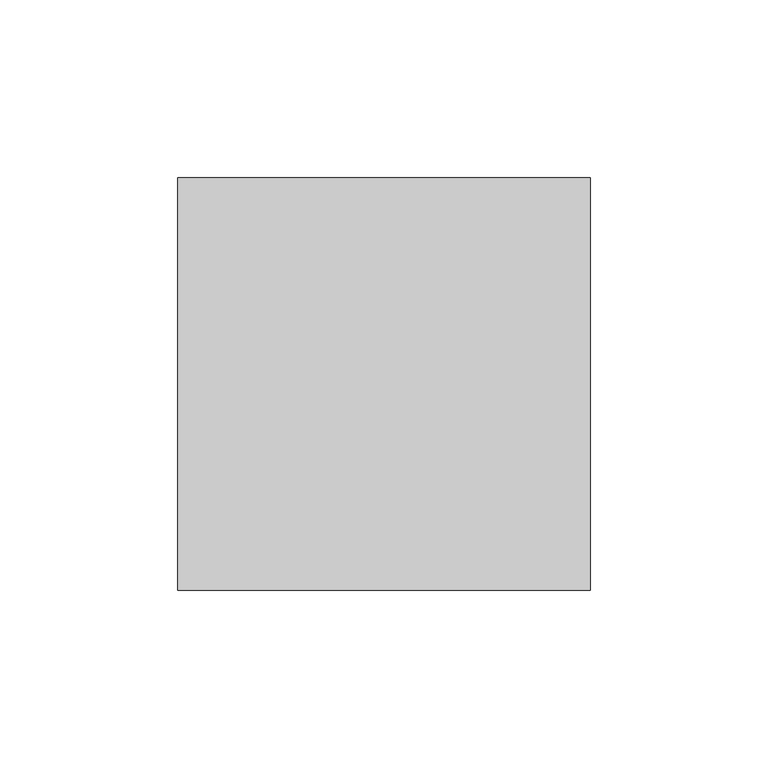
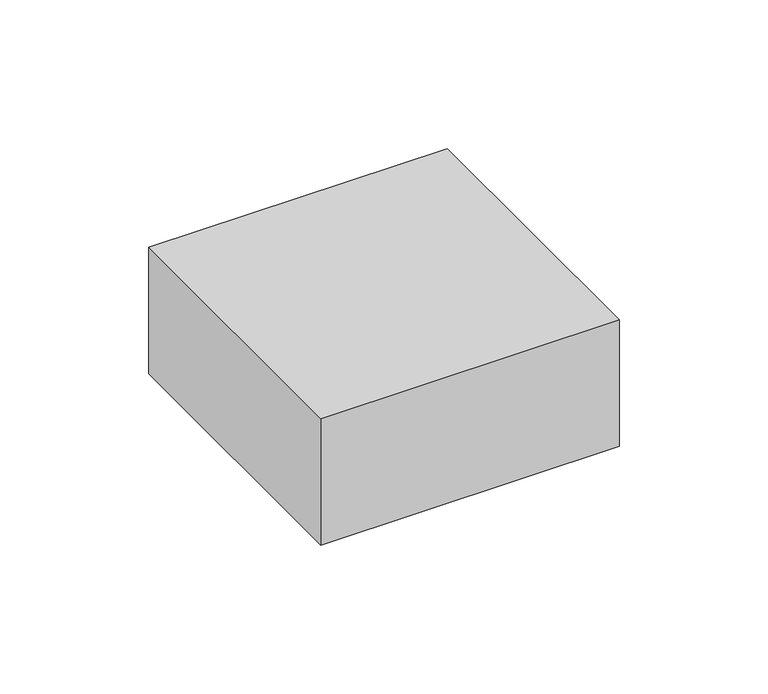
"""IFC4 building model written with IfcOpenShell, lengths in millimetres: cable carrier fitting geometry, M_Caixa de junção do conduíte - Cruzamento - Alumínio : Caixa de junção do conduíte - Cruzamento - Alumínio."""

import ifcopenshell
import ifcopenshell.guid

model = None  # the IFC model being written
_history = None  # IfcOwnerHistory: only IFC2X3 demands one
_inside = {}  # id of a spatial element -> (the spatial element, [elements in it])
_under = {}  # id of a project, library or spatial element -> (it, [spatial elements below it])
_declared = {}  # id of a project -> (the project, [libraries it declares])
_typed = {}  # id of a type object -> (the type object, [elements of that type])
_made_of = {}  # id of a material, layer set ... -> (it, [elements and type objects made of it])


def new_model(schema):
    """Start an empty IFC model of exactly this schema.

    Asked for "IFC4X3", IfcOpenShell would pick the latest addendum, in which some entities
    have other attributes; the version numbers below select the first issue.
    IFC2X3 requires an IfcOwnerHistory on every rooted entity: one is made here for all.
    """
    global model, _history
    if schema == "IFC4X3":
        model = ifcopenshell.file(schema_version=(4, 3, 0, 0))
    else:
        model = ifcopenshell.file(schema=schema)
    _inside.clear()
    _under.clear()
    _declared.clear()
    _typed.clear()
    _made_of.clear()
    _history = None
    if model.schema == "IFC2X3":
        org = make("IfcOrganization", Name="unknown")
        user = make(
            "IfcPersonAndOrganization",
            ThePerson=make("IfcPerson", FamilyName="unknown"),
            TheOrganization=org,
        )
        app = make(
            "IfcApplication",
            ApplicationDeveloper=org,
            Version="unknown",
            ApplicationFullName="unknown",
            ApplicationIdentifier="unknown",
        )
        _history = make(
            "IfcOwnerHistory",
            OwningUser=user,
            OwningApplication=app,
            ChangeAction="ADDED",
            CreationDate=0,
        )
    return model


def make(cls, **values):
    """One entity of the class cls with the attributes given. An attribute that is None is left unset."""
    return model.create_entity(
        cls, **{name: value for name, value in values.items() if value is not None}
    )


def rooted(cls, **values):
    """An entity with a GlobalId (a new one), such as an element, a storey or a relation."""
    return make(cls, GlobalId=ifcopenshell.guid.new(), OwnerHistory=_history, **values)


def si_unit(unit_type, name, prefix=None):
    """IfcSIUnit, for example si_unit("LENGTHUNIT", "METRE", prefix="MILLI")."""
    return make("IfcSIUnit", UnitType=unit_type, Prefix=prefix, Name=name)


def assignment(units):
    """IfcUnitAssignment: the units of a project."""
    return None if units is None else make("IfcUnitAssignment", Units=units)


def point(xyz):
    """IfcCartesianPoint."""
    return None if xyz is None else make("IfcCartesianPoint", Coordinates=xyz)


def direction(xyz):
    """IfcDirection."""
    return None if xyz is None else make("IfcDirection", DirectionRatios=xyz)


def frame(location, z_axis=None, x_axis=None):
    """IfcAxis2Placement3D, a coordinate frame: its origin and axes. An axis left out is left unset."""
    return make(
        "IfcAxis2Placement3D",
        Location=point(location),
        Axis=direction(z_axis),
        RefDirection=direction(x_axis),
    )


def origin():
    """The frame at (0, 0, 0) with its axes left unset."""
    return frame((0.0, 0.0, 0.0))


def place(relative_to, where):
    """IfcLocalPlacement: puts the frame where relative to a parent placement (None: the world)."""
    return make(
        "IfcLocalPlacement", PlacementRelTo=relative_to, RelativePlacement=where
    )


def context(
    kind, dimensions, precision=None, world=None, true_north=None, identifier=None
):
    """IfcGeometricRepresentationContext, for example the 3D "Model" context."""
    return make(
        "IfcGeometricRepresentationContext",
        ContextIdentifier=identifier,
        ContextType=kind,
        CoordinateSpaceDimension=dimensions,
        Precision=precision,
        WorldCoordinateSystem=world,
        TrueNorth=true_north,
    )


def project(units=None, contexts=None):
    """IfcProject with its units and contexts."""
    return rooted(
        "IfcProject",
        Name="project",
        RepresentationContexts=contexts,
        UnitsInContext=assignment(units),
    )


def spatial(cls, under=None, at=None, **own):
    """A site, building, storey or space (cls), placed at a placement, below another one or the project."""
    s = rooted(cls, ObjectPlacement=at, **own)
    if under is not None:
        _under.setdefault(under.id(), (under, []))[1].append(s)
    return s


def polyline(points):
    """IfcPolyline through the points."""
    return make("IfcPolyline", Points=[point(p) for p in points])


def outline(outer, holes=None, kind="AREA"):
    """IfcArbitraryClosedProfileDef: a profile drawn as a closed curve; with holes, ...WithVoids."""
    if holes is None:
        return make("IfcArbitraryClosedProfileDef", ProfileType=kind, OuterCurve=outer)
    return make(
        "IfcArbitraryProfileDefWithVoids",
        ProfileType=kind,
        OuterCurve=outer,
        InnerCurves=holes,
    )


def extrude(swept, where, along, depth):
    """IfcExtrudedAreaSolid: the profile swept, set in the frame where, extruded along a direction by depth."""
    return make(
        "IfcExtrudedAreaSolid",
        SweptArea=swept,
        Position=where,
        ExtrudedDirection=direction(along),
        Depth=depth,
    )


def shape(context_of_items, identifier, shape_type, items):
    """IfcShapeRepresentation: the items that make up one representation, for example the "Body"."""
    return make(
        "IfcShapeRepresentation",
        ContextOfItems=context_of_items,
        RepresentationIdentifier=identifier,
        RepresentationType=shape_type,
        Items=items,
    )


def source(mapping_origin, context_of_items, identifier, shape_type, items):
    """IfcRepresentationMap: a shape defined once, which mapped items show again and again."""
    return make(
        "IfcRepresentationMap",
        MappingOrigin=mapping_origin,
        MappedRepresentation=shape(context_of_items, identifier, shape_type, items),
    )


def transform(
    local_origin,
    x_axis=None,
    y_axis=None,
    z_axis=None,
    scale=None,
    scale2=None,
    scale3=None,
    uniform=True,
):
    """IfcCartesianTransformationOperator3D, or its non-uniform kind. x_axis, y_axis, z_axis: its Axis1, 2, 3."""
    if uniform:
        return make(
            "IfcCartesianTransformationOperator3D",
            Axis1=direction(x_axis),
            Axis2=direction(y_axis),
            LocalOrigin=point(local_origin),
            Scale=scale,
            Axis3=direction(z_axis),
        )
    return make(
        "IfcCartesianTransformationOperator3DnonUniform",
        Axis1=direction(x_axis),
        Axis2=direction(y_axis),
        LocalOrigin=point(local_origin),
        Scale=scale,
        Axis3=direction(z_axis),
        Scale2=scale2,
        Scale3=scale3,
    )


def mapped(mapping_source, mapping_target):
    """IfcMappedItem: shows the shape of a source again, moved by a transform."""
    return make(
        "IfcMappedItem", MappingSource=mapping_source, MappingTarget=mapping_target
    )


def made_of(thing, what):
    """Note that an element or type object is made of a material, layer set ...; save() writes the relation."""
    if what is not None:
        _made_of.setdefault(what.id(), (what, []))[1].append(thing)
    return thing


def element(
    cls,
    number,
    at=None,
    inside=None,
    cuts=None,
    type_object=None,
    material=None,
    context=None,
    identifier="Body",
    shape_type=None,
    held_by="IfcProductDefinitionShape",
    body=None,
    shapes=None,
    **own,
):
    """One element of the class cls, such as IfcWall. Its Tag is "e" and its number.

    at: its placement. inside: the storey or other place that contains it. cuts: it is an
    opening in that element (IfcRelVoidsElement). A single representation is given by context,
    identifier, shape_type and body (its items); several are given by shapes. held_by: the class
    of the entity that holds the representations. save() writes the other relations.
    """
    e = rooted(cls, Tag="e%d" % number, ObjectPlacement=at, **own)
    if body is not None:
        shapes = [shape(context, identifier, shape_type, body)]
    if shapes is not None:
        e.Representation = make(held_by, Representations=shapes)
    if inside is not None:
        _inside.setdefault(inside.id(), (inside, []))[1].append(e)
    if cuts is not None:
        rooted(
            "IfcRelVoidsElement", RelatingBuildingElement=cuts, RelatedOpeningElement=e
        )
    if type_object is not None:
        _typed.setdefault(type_object.id(), (type_object, []))[1].append(e)
    return made_of(e, material)


def aggregate(whole, parts):
    """IfcRelAggregates: a whole, such as a stair, and the parts it consists of."""
    return rooted("IfcRelAggregates", RelatingObject=whole, RelatedObjects=parts)


def save(model, path):
    """Write the relations noted so far, then the file.

    IfcRelAggregates (storeys below a building ...), IfcRelContainedInSpatialStructure (elements
    in a storey), IfcRelDefinesByType, IfcRelAssociatesMaterial and IfcRelDeclares: one each for
    every whole, place, type object, material and project.
    """
    for whole, parts in _under.values():
        aggregate(whole, parts)
    for where, things in _inside.values():
        rooted(
            "IfcRelContainedInSpatialStructure",
            RelatedElements=things,
            RelatingStructure=where,
        )
    for kind, things in _typed.values():
        rooted("IfcRelDefinesByType", RelatedObjects=things, RelatingType=kind)
    for what, things in _made_of.values():
        rooted("IfcRelAssociatesMaterial", RelatedObjects=things, RelatingMaterial=what)
    for by, libraries in _declared.values():
        rooted("IfcRelDeclares", RelatingContext=by, RelatedDefinitions=libraries)
    model.write(path)


def cable_carrier_fitting_8073d2f8(model_context):
    return source(origin(), model_context, "Body", "SweptSolid", [
        extrude(outline(polyline([(58.0, 58.0), (58.0, -58.0), (-58.0, -58.0), (-58.0, 58.0), (58.0, 58.0)])), frame((0.0, 0.0, -26.0), z_axis=(0.0, 0.0, 1.0), x_axis=(1.0, 0.0, 0.0)), (0.0, 0.0, 1.0), 52.0),
    ])


if __name__ == "__main__":
    model = new_model("IFC4")
    model_context = context("Model", 3, world=origin())
    ifc_project = project(units=[si_unit("LENGTHUNIT", "METRE", prefix="MILLI")], contexts=[model_context])
    site = spatial("IfcSite", under=ifc_project)
    building = spatial("IfcBuilding", under=site)
    placement = place(None, origin())
    cable_carrier_fitting_shape = cable_carrier_fitting_8073d2f8(model_context)
    element("IfcCableCarrierFitting", 1, ObjectType="M_Caixa de junção do conduíte - Cruzamento - Alumínio : Caixa de junção do conduíte - Cruzamento - Alumínio", at=placement, inside=building, context=model_context, shape_type="MappedRepresentation", body=[
        mapped(cable_carrier_fitting_shape, transform((0.0, 0.0, 0.0), x_axis=(1.0, 0.0, 0.0), y_axis=(0.0, 1.0, 0.0), z_axis=(0.0, 0.0, 1.0))),
    ])
    save(model, "model.ifc")
